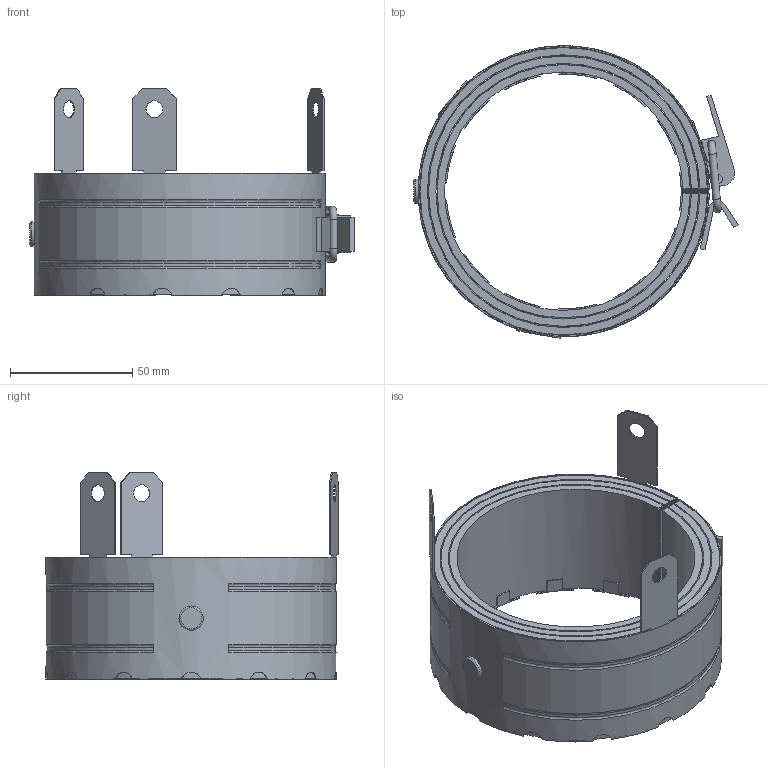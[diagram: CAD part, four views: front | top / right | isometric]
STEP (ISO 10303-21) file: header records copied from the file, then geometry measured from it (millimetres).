
FILE_DESCRIPTION(/* description */ (''),/* implementation_level */ '2;1');
FILE_NAME(/* name */ 'H:\Geberit-Teile\Export\RS90 plus\stp\348332.stp',/* time_stamp */ '2017-03-24T12:30:01+01:00',/* author */ ('seihe2'),/* organization */ (''),/* preprocessor_version */ 'ST-DEVELOPER v15.2',/* originating_system */ 'Autodesk Inventor 2014',/* authorisation */ '');
FILE_SCHEMA (('AUTOMOTIVE_DESIGN { 1 0 10303 214 3 1 1 }'));
Length unit declared in the file: millimetre
Products named in the file (1): 348332
Bounding box: 132.45 x 119.65 x 84.5 mm (x, y, z)
Volume: 164111.5 mm3; surface area: 155476.3 mm2
Topology: 3 solids, 3 shells, 321 faces, 990 edges, 601 vertices
Faces by surface type: plane 235, cylinder 73, torus 13
Full cylindrical faces by diameter (mm): 3 x3, 3.5 x2, 4 x3, 7 x3, 10 x1
Entity records: 11870 total; most frequent: CARTESIAN_POINT 2516, ORIENTED_EDGE 1944, DIRECTION 1914, EDGE_CURVE 968, AXIS2_PLACEMENT_3D 686, VERTEX_POINT 596, LINE 542, VECTOR 542
